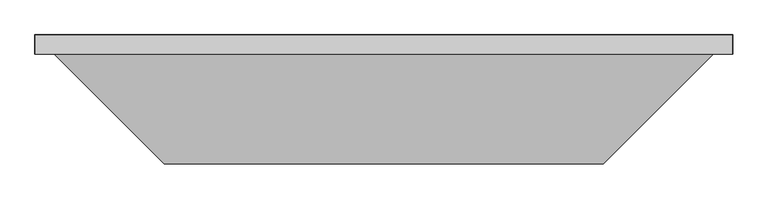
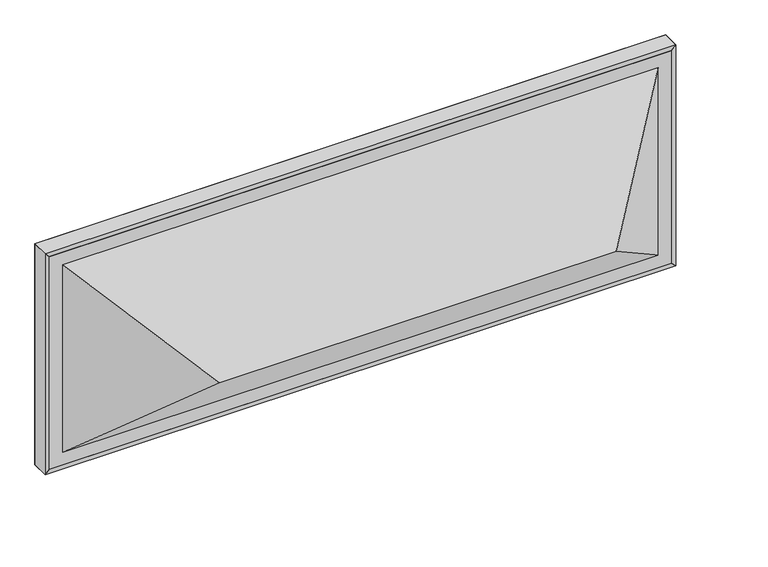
"""IFC4 building model written with IfcOpenShell, lengths in millimetres: proxy geometry, DATUM^OFFICE 2_DESK-WORKSURFACE."""

from ifc_helpers import new_model, si_unit, frame, origin, place, context, project, spatial, polyline, outline, extrude, faceted_brep, source, transform, mapped, element, save


def generic_models_2b35a4f1(model_context):
    return source(origin(), model_context, "Body", "SolidModel", [
        extrude(outline(polyline([(2724.15, -57.15), (19.05, -57.15), (19.05, -25.4), (2724.15, -25.4), (2724.15, -57.15)])), frame((0.0, 0.0, -996.95), z_axis=(0.0, 0.0, 1.0), x_axis=(1.0, 0.0, 0.0)), (0.0, 0.0, 1.0), 977.9),
        faceted_brep([(19.05, 0.0, -996.95), (0.0, 19.05, -1016.0), (0.0, -57.15, -1016.0), (19.05, -57.15, -996.95), (2743.2, 19.05, -1016.0), (2743.2, -57.15, -1016.0), (2724.15, 0.0, -996.95), (2724.15, -57.15, -996.95)], [[[0, 1, 2, 3]], [[1, 4, 5, 2]], [[4, 6, 7, 5]], [[6, 0, 3, 7]], [[3, 2, 5, 7]], [[4, 1, 0, 6]]]),
        faceted_brep([(2743.2, 19.05, -1016.0), (2743.2, 19.05, 0.0), (2743.2, -57.15, 0.0), (2743.2, -57.15, -1016.0), (2724.15, 0.0, -19.05), (2724.15, -57.15, -19.05), (2724.15, 0.0, -996.95), (2724.15, -57.15, -996.95)], [[[0, 1, 2, 3]], [[1, 4, 5, 2]], [[4, 6, 7, 5]], [[6, 0, 3, 7]], [[3, 2, 5, 7]], [[4, 1, 0, 6]]]),
        faceted_brep([(0.0, 19.05, 0.0), (0.0, 19.05, -1016.0), (0.0, -57.15, -1016.0), (0.0, -57.15, 0.0), (19.05, 0.0, -996.95), (19.05, -57.15, -996.95), (19.05, 0.0, -19.05), (19.05, -57.15, -19.05)], [[[0, 1, 2, 3]], [[1, 4, 5, 2]], [[4, 6, 7, 5]], [[6, 0, 3, 7]], [[3, 2, 5, 7]], [[4, 1, 0, 6]]]),
        faceted_brep([(2724.15, -57.15, -19.05), (19.05, -57.15, -19.05), (19.05, 0.0, -19.05), (2724.15, 0.0, -19.05), (0.0, -57.15, 0.0), (2743.2, -57.15, 0.0), (2743.2, 19.05, 0.0), (0.0, 19.05, 0.0)], [[[0, 1, 2, 3]], [[4, 5, 6, 7]], [[1, 0, 5, 4]], [[7, 2, 1, 4]], [[3, 6, 5, 0]], [[2, 7, 6, 3]]]),
        faceted_brep([(0.0, 19.05, -1016.0), (508.0, -488.95, -508.0), (0.0, 19.05, 0.0), (2743.2, 19.05, -1016.0), (2235.2, -488.95, -508.0), (2743.2, 19.05, 0.0)], [[[0, 1, 2]], [[1, 0, 3, 4]], [[1, 4, 5, 2]], [[4, 3, 5]], [[5, 3, 0, 2]]]),
    ])


if __name__ == "__main__":
    model = new_model("IFC4")
    model_context = context("Model", 3, world=origin())
    ifc_project = project(units=[si_unit("LENGTHUNIT", "METRE", prefix="MILLI")], contexts=[model_context])
    site = spatial("IfcSite", under=ifc_project)
    building = spatial("IfcBuilding", under=site)
    placement = place(None, origin())
    generic_models_shape = generic_models_2b35a4f1(model_context)
    element("IfcBuildingElementProxy", 1, Name="DATUM^OFFICE 2_DESK-WORKSURFACE", ObjectType="DATUM^OFFICE 2_DESK-WORKSURFACE", at=placement, inside=building, context=model_context, shape_type="MappedRepresentation", body=[
        mapped(generic_models_shape, transform((0.0, 0.0, 0.0), x_axis=(1.0, 0.0, 0.0), y_axis=(0.0, 1.0, 0.0), z_axis=(0.0, 0.0, 1.0))),
    ])
    save(model, "model.ifc")
